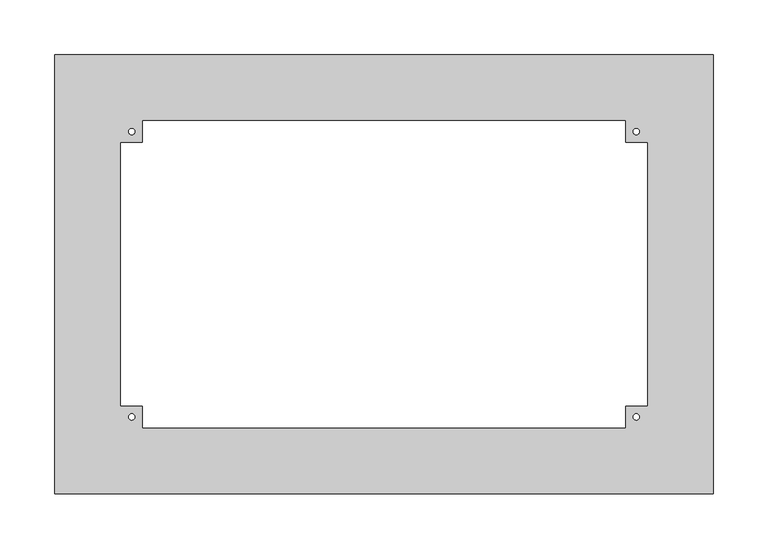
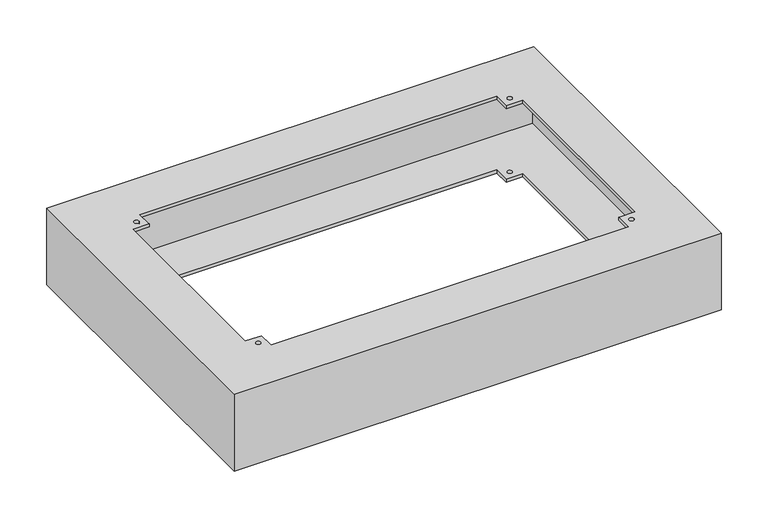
"""IFC4 building model written with IfcOpenShell, lengths in millimetres: furniture geometry, НВО_КНС_Сейсмоцоколь_DKC : Сейсмоцоколь 600x400x100мм."""

from ifc_helpers import new_model, si_unit, frame, origin, place, context, project, spatial, polyline, circle_curve, source, transform, mapped, element, save
from ifc_brep_helpers import plane_surface, revolved_surface, advanced_brep


def furniture_c3a98835(model_context):
    return source(origin(), model_context, "Body", "AdvancedBrep", [
        advanced_brep(
        [(300.0, 200.0, 100.0), (-300.0, 200.0, 100.0), (-300.0, -200.0, 100.0), (300.0, -200.0, 100.0), (220.0, 140.0, 100.0), (220.0, 120.0, 100.0), (240.0, 120.0, 100.0), (240.0, -120.0, 100.0), (220.0, -120.0, 100.0), (220.0, -140.0, 100.0), (-220.0, -140.0, 100.0), (-220.0, -120.0, 100.0), (-240.0, -120.0, 100.0), (-240.0, 120.0, 100.0), (-220.0, 120.0, 100.0), (-220.0, 140.0, 100.0), (-232.8696247, 130.0, 100.0), (-227.1303753, 130.0, 100.0), (227.1303753, 130.0, 100.0), (232.8696247, 130.0, 100.0), (-232.8696247, -130.0, 100.0), (-227.1303753, -130.0, 100.0), (227.1303753, -130.0, 100.0), (232.8696247, -130.0, 100.0), (300.0, 200.0, 0.0), (300.0, -200.0, 0.0), (-300.0, -200.0, 0.0), (-300.0, 200.0, 0.0), (220.0, 140.0, 0.0), (-220.0, 140.0, 0.0), (-220.0, 120.0, 0.0), (-240.0, 120.0, 0.0), (-240.0, -120.0, 0.0), (-220.0, -120.0, 0.0), (-220.0, -140.0, 0.0), (220.0, -140.0, 0.0), (220.0, -120.0, 0.0), (240.0, -120.0, 0.0), (240.0, 120.0, 0.0), (220.0, 120.0, 0.0), (-232.8696247, 130.0, 0.0), (-227.1303753, 130.0, 0.0), (227.1303753, 130.0, 0.0), (232.8696247, 130.0, 0.0), (-232.8696247, -130.0, 0.0), (-227.1303753, -130.0, 0.0), (227.1303753, -130.0, 0.0), (232.8696247, -130.0, 0.0), (220.0, 140.0, 96.0), (220.0, 120.0, 96.0), (220.0, 120.0, 4.0), (220.0, 140.0, 4.0), (240.0, 120.0, 96.0), (240.0, 120.0, 4.0), (240.0, -120.0, 96.0), (240.0, -120.0, 4.0), (220.0, -120.0, 96.0), (220.0, -120.0, 4.0), (220.0, -140.0, 96.0), (220.0, -140.0, 4.0), (-220.0, -140.0, 96.0), (-220.0, -140.0, 4.0), (-220.0, -120.0, 96.0), (-220.0, -120.0, 4.0), (-240.0, -120.0, 96.0), (-240.0, -120.0, 4.0), (-240.0, 120.0, 96.0), (-240.0, 120.0, 4.0), (-220.0, 120.0, 96.0), (-220.0, 120.0, 4.0), (-220.0, 140.0, 96.0), (-220.0, 140.0, 4.0), (-232.8696247, 130.0, 96.0), (-227.1303753, 130.0, 96.0), (-227.1303753, 130.0, 4.0), (-232.8696247, 130.0, 4.0), (227.1303753, 130.0, 96.0), (232.8696247, 130.0, 96.0), (232.8696247, 130.0, 4.0), (227.1303753, 130.0, 4.0), (-232.8696247, -130.0, 96.0), (-227.1303753, -130.0, 96.0), (-227.1303753, -130.0, 4.0), (-232.8696247, -130.0, 4.0), (227.1303753, -130.0, 96.0), (232.8696247, -130.0, 96.0), (232.8696247, -130.0, 4.0), (227.1303753, -130.0, 4.0), (296.0, 196.0, 96.0), (296.0, -196.0, 96.0), (-296.0, -196.0, 96.0), (-296.0, 196.0, 96.0), (296.0, 196.0, 4.0), (-296.0, 196.0, 4.0), (-296.0, -196.0, 4.0), (296.0, -196.0, 4.0)],
        [
            (0, 1),
            (1, 2),
            (2, 3),
            (3, 0),
            (4, 5),
            (5, 6),
            (6, 7),
            (7, 8),
            (8, 9),
            (9, 10),
            (10, 11),
            (11, 12),
            (12, 13),
            (13, 14),
            (14, 15),
            (15, 4),
            (16, 17, circle_curve(frame((-230.0, 130.0, 100.0), z_axis=(0.0, 0.0, -1.0), x_axis=(1.0, 0.0, 0.0)), 2.8696247)),
            (17, 16, circle_curve(frame((-230.0, 130.0, 100.0), z_axis=(0.0, 0.0, -1.0), x_axis=(1.0, 0.0, 0.0)), 2.8696247)),
            (18, 19, circle_curve(frame((230.0, 130.0, 100.0), z_axis=(0.0, 0.0, -1.0), x_axis=(1.0, 0.0, 0.0)), 2.8696247)),
            (19, 18, circle_curve(frame((230.0, 130.0, 100.0), z_axis=(0.0, 0.0, -1.0), x_axis=(1.0, 0.0, 0.0)), 2.8696247)),
            (20, 21, circle_curve(frame((-230.0, -130.0, 100.0), z_axis=(0.0, 0.0, -1.0), x_axis=(1.0, 0.0, 0.0)), 2.8696247)),
            (21, 20, circle_curve(frame((-230.0, -130.0, 100.0), z_axis=(0.0, 0.0, -1.0), x_axis=(1.0, 0.0, 0.0)), 2.8696247)),
            (22, 23, circle_curve(frame((230.0, -130.0, 100.0), z_axis=(0.0, 0.0, -1.0), x_axis=(1.0, 0.0, 0.0)), 2.8696247)),
            (23, 22, circle_curve(frame((230.0, -130.0, 100.0), z_axis=(0.0, 0.0, -1.0), x_axis=(1.0, 0.0, 0.0)), 2.8696247)),
            (24, 25),
            (25, 26),
            (26, 27),
            (27, 24),
            (28, 29),
            (29, 30),
            (30, 31),
            (31, 32),
            (32, 33),
            (33, 34),
            (34, 35),
            (35, 36),
            (36, 37),
            (37, 38),
            (38, 39),
            (39, 28),
            (40, 41, circle_curve(frame((-230.0, 130.0, 0.0), z_axis=(0.0, 0.0, 1.0), x_axis=(1.0, 0.0, 0.0)), 2.8696247)),
            (41, 40, circle_curve(frame((-230.0, 130.0, 0.0), z_axis=(0.0, 0.0, 1.0), x_axis=(1.0, 0.0, 0.0)), 2.8696247)),
            (42, 43, circle_curve(frame((230.0, 130.0, 0.0), z_axis=(0.0, 0.0, 1.0), x_axis=(1.0, 0.0, 0.0)), 2.8696247)),
            (43, 42, circle_curve(frame((230.0, 130.0, 0.0), z_axis=(0.0, 0.0, 1.0), x_axis=(1.0, 0.0, 0.0)), 2.8696247)),
            (44, 45, circle_curve(frame((-230.0, -130.0, 0.0), z_axis=(0.0, 0.0, 1.0), x_axis=(1.0, 0.0, 0.0)), 2.8696247)),
            (45, 44, circle_curve(frame((-230.0, -130.0, 0.0), z_axis=(0.0, 0.0, 1.0), x_axis=(1.0, 0.0, 0.0)), 2.8696247)),
            (46, 47, circle_curve(frame((230.0, -130.0, 0.0), z_axis=(0.0, 0.0, 1.0), x_axis=(1.0, 0.0, 0.0)), 2.8696247)),
            (47, 46, circle_curve(frame((230.0, -130.0, 0.0), z_axis=(0.0, 0.0, 1.0), x_axis=(1.0, 0.0, 0.0)), 2.8696247)),
            (0, 24),
            (27, 1),
            (26, 2),
            (25, 3),
            (4, 48),
            (48, 49),
            (49, 5),
            (39, 50),
            (50, 51),
            (51, 28),
            (49, 52),
            (52, 6),
            (38, 53),
            (53, 50),
            (52, 54),
            (54, 7),
            (37, 55),
            (55, 53),
            (54, 56),
            (56, 8),
            (36, 57),
            (57, 55),
            (56, 58),
            (58, 9),
            (35, 59),
            (59, 57),
            (58, 60),
            (60, 10),
            (34, 61),
            (61, 59),
            (60, 62),
            (62, 11),
            (33, 63),
            (63, 61),
            (62, 64),
            (64, 12),
            (32, 65),
            (65, 63),
            (64, 66),
            (66, 13),
            (31, 67),
            (67, 65),
            (66, 68),
            (68, 14),
            (30, 69),
            (69, 67),
            (68, 70),
            (70, 15),
            (29, 71),
            (71, 69),
            (70, 48),
            (51, 71),
            (16, 72),
            (72, 73, circle_curve(frame((-230.0, 130.0, 96.0), z_axis=(0.0, 0.0, -1.0), x_axis=(1.0, 0.0, 0.0)), 2.8696247)),
            (73, 17),
            (41, 74),
            (74, 75, circle_curve(frame((-230.0, 130.0, 4.0), z_axis=(0.0, 0.0, 1.0), x_axis=(1.0, 0.0, 0.0)), 2.8696247)),
            (75, 40),
            (73, 72, circle_curve(frame((-230.0, 130.0, 96.0), z_axis=(0.0, 0.0, -1.0), x_axis=(1.0, 0.0, 0.0)), 2.8696247)),
            (75, 74, circle_curve(frame((-230.0, 130.0, 4.0), z_axis=(0.0, 0.0, 1.0), x_axis=(1.0, 0.0, 0.0)), 2.8696247)),
            (18, 76),
            (76, 77, circle_curve(frame((230.0, 130.0, 96.0), z_axis=(0.0, 0.0, -1.0), x_axis=(1.0, 0.0, 0.0)), 2.8696247)),
            (77, 19),
            (43, 78),
            (78, 79, circle_curve(frame((230.0, 130.0, 4.0), z_axis=(0.0, 0.0, 1.0), x_axis=(1.0, 0.0, 0.0)), 2.8696247)),
            (79, 42),
            (77, 76, circle_curve(frame((230.0, 130.0, 96.0), z_axis=(0.0, 0.0, -1.0), x_axis=(1.0, 0.0, 0.0)), 2.8696247)),
            (79, 78, circle_curve(frame((230.0, 130.0, 4.0), z_axis=(0.0, 0.0, 1.0), x_axis=(1.0, 0.0, 0.0)), 2.8696247)),
            (20, 80),
            (80, 81, circle_curve(frame((-230.0, -130.0, 96.0), z_axis=(0.0, 0.0, -1.0), x_axis=(1.0, 0.0, 0.0)), 2.8696247)),
            (81, 21),
            (45, 82),
            (82, 83, circle_curve(frame((-230.0, -130.0, 4.0), z_axis=(0.0, 0.0, 1.0), x_axis=(1.0, 0.0, 0.0)), 2.8696247)),
            (83, 44),
            (81, 80, circle_curve(frame((-230.0, -130.0, 96.0), z_axis=(0.0, 0.0, -1.0), x_axis=(1.0, 0.0, 0.0)), 2.8696247)),
            (83, 82, circle_curve(frame((-230.0, -130.0, 4.0), z_axis=(0.0, 0.0, 1.0), x_axis=(1.0, 0.0, 0.0)), 2.8696247)),
            (22, 84),
            (84, 85, circle_curve(frame((230.0, -130.0, 96.0), z_axis=(0.0, 0.0, -1.0), x_axis=(1.0, 0.0, 0.0)), 2.8696247)),
            (85, 23),
            (47, 86),
            (86, 87, circle_curve(frame((230.0, -130.0, 4.0), z_axis=(0.0, 0.0, 1.0), x_axis=(1.0, 0.0, 0.0)), 2.8696247)),
            (87, 46),
            (85, 84, circle_curve(frame((230.0, -130.0, 96.0), z_axis=(0.0, 0.0, -1.0), x_axis=(1.0, 0.0, 0.0)), 2.8696247)),
            (87, 86, circle_curve(frame((230.0, -130.0, 4.0), z_axis=(0.0, 0.0, 1.0), x_axis=(1.0, 0.0, 0.0)), 2.8696247)),
            (88, 89),
            (89, 90),
            (90, 91),
            (91, 88),
            (92, 93),
            (93, 94),
            (94, 95),
            (95, 92),
            (91, 93),
            (92, 88),
            (90, 94),
            (89, 95),
        ],
        [
            plane_surface(frame((-300.0, 200.0, 100.0), z_axis=(0.0, 0.0, 1.0), x_axis=(-1.0, 0.0, 0.0))),
            plane_surface(frame((-300.0, 200.0, 0.0), z_axis=(0.0, 0.0, -1.0), x_axis=(1.0, 0.0, 0.0))),
            plane_surface(frame((300.0, 200.0, 100.0), z_axis=(0.0, 1.0, 0.0), x_axis=(0.0, 0.0, -1.0))),
            plane_surface(frame((-300.0, 200.0, 100.0), z_axis=(-1.0, 0.0, 0.0), x_axis=(0.0, 0.0, -1.0))),
            plane_surface(frame((-300.0, -200.0, 100.0), z_axis=(0.0, -1.0, 0.0), x_axis=(0.0, 0.0, -1.0))),
            plane_surface(frame((300.0, -200.0, 100.0), z_axis=(1.0, 0.0, 0.0), x_axis=(0.0, 0.0, -1.0))),
            plane_surface(frame((220.0, 140.0, 100.0), z_axis=(-1.0, 0.0, 0.0), x_axis=(0.0, 0.0, -1.0))),
            plane_surface(frame((220.0, 120.0, 100.0), z_axis=(0.0, -1.0, 0.0), x_axis=(0.0, 0.0, -1.0))),
            plane_surface(frame((240.0, 120.0, 100.0), z_axis=(-1.0, 0.0, 0.0), x_axis=(0.0, 0.0, -1.0))),
            plane_surface(frame((240.0, -120.0, 100.0), z_axis=(0.0, 1.0, 0.0), x_axis=(0.0, 0.0, -1.0))),
            plane_surface(frame((220.0, -120.0, 100.0), z_axis=(-1.0, 0.0, 0.0), x_axis=(0.0, 0.0, -1.0))),
            plane_surface(frame((220.0, -140.0, 100.0), z_axis=(0.0, 1.0, 0.0), x_axis=(0.0, 0.0, -1.0))),
            plane_surface(frame((-220.0, -140.0, 100.0), z_axis=(1.0, 0.0, 0.0), x_axis=(0.0, 0.0, -1.0))),
            plane_surface(frame((-220.0, -120.0, 100.0), z_axis=(0.0, 1.0, 0.0), x_axis=(0.0, 0.0, -1.0))),
            plane_surface(frame((-240.0, -120.0, 100.0), z_axis=(1.0, 0.0, 0.0), x_axis=(0.0, 0.0, -1.0))),
            plane_surface(frame((-240.0, 120.0, 100.0), z_axis=(0.0, -1.0, 0.0), x_axis=(0.0, 0.0, -1.0))),
            plane_surface(frame((-220.0, 120.0, 100.0), z_axis=(1.0, 0.0, 0.0), x_axis=(0.0, 0.0, -1.0))),
            plane_surface(frame((-220.0, 140.0, 100.0), z_axis=(0.0, -1.0, 0.0), x_axis=(0.0, 0.0, -1.0))),
            revolved_surface(polyline([(-227.1303753, 130.0, 96.0), (-227.1303753, 130.0, 100.0)]), (-230.0, 130.0, 0.0), (0.0, 0.0, -1.0)),
            revolved_surface(polyline([(-227.1303753, 130.0, 0.0), (-227.1303753, 130.0, 4.0)]), (-230.0, 130.0, 0.0), (0.0, 0.0, -1.0)),
            revolved_surface(polyline([(232.8696247, 130.0, 96.0), (232.8696247, 130.0, 100.0)]), (230.0, 130.0, 0.0), (0.0, 0.0, -1.0)),
            revolved_surface(polyline([(232.8696247, 130.0, 0.0), (232.8696247, 130.0, 4.0)]), (230.0, 130.0, 0.0), (0.0, 0.0, -1.0)),
            revolved_surface(polyline([(-227.1303753, -130.0, 96.0), (-227.1303753, -130.0, 100.0)]), (-230.0, -130.0, 0.0), (0.0, 0.0, -1.0)),
            revolved_surface(polyline([(-227.1303753, -130.0, 0.0), (-227.1303753, -130.0, 4.0)]), (-230.0, -130.0, 0.0), (0.0, 0.0, -1.0)),
            revolved_surface(polyline([(232.8696247, -130.0, 96.0), (232.8696247, -130.0, 100.0)]), (230.0, -130.0, 0.0), (0.0, 0.0, -1.0)),
            revolved_surface(polyline([(232.8696247, -130.0, 0.0), (232.8696247, -130.0, 4.0)]), (230.0, -130.0, 0.0), (0.0, 0.0, -1.0)),
            plane_surface(frame((-296.0, 196.0, 96.0), z_axis=(0.0, 0.0, -1.0), x_axis=(-1.0, 0.0, 0.0))),
            plane_surface(frame((-296.0, 196.0, 4.0), z_axis=(0.0, 0.0, 1.0), x_axis=(1.0, 0.0, 0.0))),
            plane_surface(frame((296.0, 196.0, 96.0), z_axis=(0.0, -1.0, 0.0), x_axis=(0.0, 0.0, -1.0))),
            plane_surface(frame((-296.0, 196.0, 96.0), z_axis=(1.0, 0.0, 0.0), x_axis=(0.0, 0.0, -1.0))),
            plane_surface(frame((-296.0, -196.0, 96.0), z_axis=(0.0, 1.0, 0.0), x_axis=(0.0, 0.0, -1.0))),
            plane_surface(frame((296.0, -196.0, 96.0), z_axis=(-1.0, 0.0, 0.0), x_axis=(0.0, 0.0, -1.0))),
        ],
        [
            (0, [[1, 2, 3, 4], [5, 6, 7, 8, 9, 10, 11, 12, 13, 14, 15, 16], [17, 18], [19, 20], [21, 22], [23, 24]]),
            (1, [[25, 26, 27, 28], [29, 30, 31, 32, 33, 34, 35, 36, 37, 38, 39, 40], [41, 42], [43, 44], [45, 46], [47, 48]]),
            (2, [[-1, 49, -28, 50]]),
            (3, [[-2, -50, -27, 51]]),
            (4, [[-3, -51, -26, 52]]),
            (5, [[-4, -52, -25, -49]]),
            (6, [[-5, 53, 54, 55]]),
            (6, [[-40, 56, 57, 58]]),
            (7, [[-6, -55, 59, 60]]),
            (7, [[-39, 61, 62, -56]]),
            (8, [[-7, -60, 63, 64]]),
            (8, [[-38, 65, 66, -61]]),
            (9, [[-8, -64, 67, 68]]),
            (9, [[-37, 69, 70, -65]]),
            (10, [[-9, -68, 71, 72]]),
            (10, [[-36, 73, 74, -69]]),
            (11, [[-10, -72, 75, 76]]),
            (11, [[-35, 77, 78, -73]]),
            (12, [[-11, -76, 79, 80]]),
            (12, [[-34, 81, 82, -77]]),
            (13, [[-12, -80, 83, 84]]),
            (13, [[-33, 85, 86, -81]]),
            (14, [[-13, -84, 87, 88]]),
            (14, [[-32, 89, 90, -85]]),
            (15, [[-14, -88, 91, 92]]),
            (15, [[-31, 93, 94, -89]]),
            (16, [[-15, -92, 95, 96]]),
            (16, [[-30, 97, 98, -93]]),
            (17, [[-16, -96, 99, -53]]),
            (17, [[-29, -58, 100, -97]]),
            (18, [[-17, 101, 102, 103]]),
            (19, [[-42, 104, 105, 106]]),
            (18, [[-18, -103, 107, -101]]),
            (19, [[-41, -106, 108, -104]]),
            (20, [[-19, 109, 110, 111]]),
            (21, [[-44, 112, 113, 114]]),
            (20, [[-20, -111, 115, -109]]),
            (21, [[-43, -114, 116, -112]]),
            (22, [[-21, 117, 118, 119]]),
            (23, [[-46, 120, 121, 122]]),
            (22, [[-22, -119, 123, -117]]),
            (23, [[-45, -122, 124, -120]]),
            (24, [[-23, 125, 126, 127]]),
            (25, [[-48, 128, 129, 130]]),
            (24, [[-24, -127, 131, -125]]),
            (25, [[-47, -130, 132, -128]]),
            (26, [[133, 134, 135, 136], [-54, -99, -95, -91, -87, -83, -79, -75, -71, -67, -63, -59], [-102, -107], [-110, -115], [-118, -123], [-126, -131]]),
            (27, [[137, 138, 139, 140], [-57, -62, -66, -70, -74, -78, -82, -86, -90, -94, -98, -100], [-105, -108], [-113, -116], [-121, -124], [-129, -132]]),
            (28, [[-136, 141, -137, 142]]),
            (29, [[-135, 143, -138, -141]]),
            (30, [[-134, 144, -139, -143]]),
            (31, [[-133, -142, -140, -144]]),
        ],
    ),
    ])


if __name__ == "__main__":
    model = new_model("IFC4")
    model_context = context("Model", 3, world=origin())
    ifc_project = project(units=[si_unit("LENGTHUNIT", "METRE", prefix="MILLI")], contexts=[model_context])
    site = spatial("IfcSite", under=ifc_project)
    building = spatial("IfcBuilding", under=site)
    placement = place(None, origin())
    furniture_shape = furniture_c3a98835(model_context)
    element("IfcFurniture", 1, ObjectType="НВО_КНС_Сейсмоцоколь_DKC : Сейсмоцоколь 600x400x100мм", at=placement, inside=building, context=model_context, shape_type="MappedRepresentation", body=[
        mapped(furniture_shape, transform((0.0, 0.0, 0.0), x_axis=(1.0, 0.0, 0.0), y_axis=(0.0, 1.0, 0.0), z_axis=(0.0, 0.0, 1.0))),
    ])
    save(model, "model.ifc")
